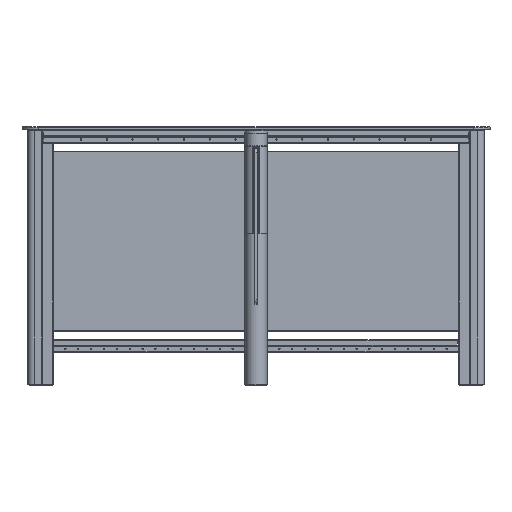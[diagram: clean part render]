
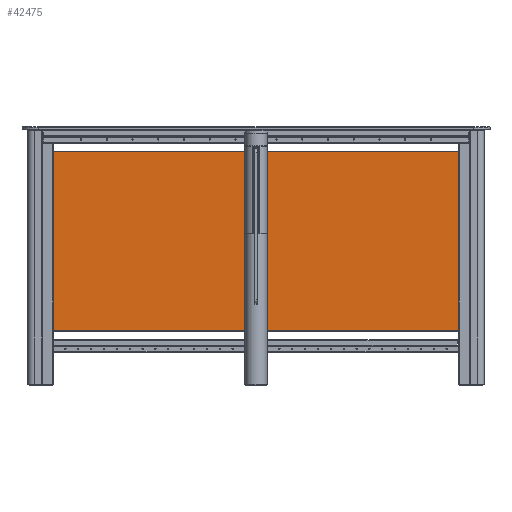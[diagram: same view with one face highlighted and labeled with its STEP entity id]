
A CAD part, left-side view. The second image highlights one B-rep face of the part: STEP entity #42475.
In plain terms, the highlighted planar face has unit normal (-1, 0, 0) as drawn and (0, 0, -1) by its records, which use the part's own axes.
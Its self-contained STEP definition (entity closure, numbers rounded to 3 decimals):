
#6025=LINE('',#73056,#10414);
#6026=LINE('',#73061,#10415);
#6027=LINE('',#73065,#10416);
#6028=LINE('',#73069,#10417);
#10414=VECTOR('',#56935,1000.);
#10415=VECTOR('',#56938,1000.);
#10416=VECTOR('',#56941,1000.);
#10417=VECTOR('',#56944,1000.);
#21252=ORIENTED_EDGE('',*,*,#27601,.T.);
#21253=ORIENTED_EDGE('',*,*,#27602,.T.);
#21254=ORIENTED_EDGE('',*,*,#27603,.T.);
#21255=ORIENTED_EDGE('',*,*,#27604,.T.);
#21256=ORIENTED_EDGE('',*,*,#27605,.T.);
#21257=ORIENTED_EDGE('',*,*,#27606,.T.);
#21258=ORIENTED_EDGE('',*,*,#27607,.T.);
#21259=ORIENTED_EDGE('',*,*,#27608,.T.);
#21260=ORIENTED_EDGE('',*,*,#27609,.T.);
#21261=ORIENTED_EDGE('',*,*,#27610,.T.);
#21262=ORIENTED_EDGE('',*,*,#27611,.T.);
#21263=ORIENTED_EDGE('',*,*,#27612,.T.);
#21264=ORIENTED_EDGE('',*,*,#27613,.T.);
#21265=ORIENTED_EDGE('',*,*,#27614,.T.);
#27601=EDGE_CURVE('',#31579,#31580,#6025,.T.);
#27602=EDGE_CURVE('',#31580,#31581,#32832,.T.);
#27603=EDGE_CURVE('',#31581,#31582,#6026,.T.);
#27604=EDGE_CURVE('',#31582,#31583,#32833,.T.);
#27605=EDGE_CURVE('',#31583,#31584,#6027,.T.);
#27606=EDGE_CURVE('',#31584,#31585,#32834,.T.);
#27607=EDGE_CURVE('',#31585,#31586,#6028,.T.);
#27608=EDGE_CURVE('',#31586,#31579,#32835,.T.);
#27609=EDGE_CURVE('',#31587,#31587,#32836,.F.);
#27610=EDGE_CURVE('',#31588,#31588,#32837,.F.);
#27611=EDGE_CURVE('',#31589,#31589,#32838,.F.);
#27612=EDGE_CURVE('',#31590,#31590,#32839,.F.);
#27613=EDGE_CURVE('',#31591,#31591,#32840,.F.);
#27614=EDGE_CURVE('',#31592,#31592,#32841,.F.);
#31579=VERTEX_POINT('',#73057);
#31580=VERTEX_POINT('',#73058);
#31581=VERTEX_POINT('',#73060);
#31582=VERTEX_POINT('',#73062);
#31583=VERTEX_POINT('',#73064);
#31584=VERTEX_POINT('',#73066);
#31585=VERTEX_POINT('',#73068);
#31586=VERTEX_POINT('',#73070);
#31587=VERTEX_POINT('',#73073);
#31588=VERTEX_POINT('',#73075);
#31589=VERTEX_POINT('',#73077);
#31590=VERTEX_POINT('',#73079);
#31591=VERTEX_POINT('',#73081);
#31592=VERTEX_POINT('',#73083);
#32832=CIRCLE('',#46467,14.);
#32833=CIRCLE('',#46468,14.);
#32834=CIRCLE('',#46469,14.);
#32835=CIRCLE('',#46470,14.);
#32836=CIRCLE('',#46471,7.);
#32837=CIRCLE('',#46472,7.);
#32838=CIRCLE('',#46473,7.);
#32839=CIRCLE('',#46474,7.);
#32840=CIRCLE('',#46475,7.);
#32841=CIRCLE('',#46476,7.);
#35611=EDGE_LOOP('',(#21252,#21253,#21254,#21255,#21256,#21257,#21258,#21259));
#35612=EDGE_LOOP('',(#21260));
#35613=EDGE_LOOP('',(#21261));
#35614=EDGE_LOOP('',(#21262));
#35615=EDGE_LOOP('',(#21263));
#35616=EDGE_LOOP('',(#21264));
#35617=EDGE_LOOP('',(#21265));
#38570=FACE_BOUND('',#35611,.T.);
#38571=FACE_BOUND('',#35612,.T.);
#38572=FACE_BOUND('',#35613,.T.);
#38573=FACE_BOUND('',#35614,.T.);
#38574=FACE_BOUND('',#35615,.T.);
#38575=FACE_BOUND('',#35616,.T.);
#38576=FACE_BOUND('',#35617,.T.);
#40284=PLANE('',#46466);
#42475=ADVANCED_FACE('',(#38570,#38571,#38572,#38573,#38574,#38575,#38576),
#40284,.T.);
#46466=AXIS2_PLACEMENT_3D('',#73055,#56933,#56934);
#46467=AXIS2_PLACEMENT_3D('',#73059,#56936,#56937);
#46468=AXIS2_PLACEMENT_3D('',#73063,#56939,#56940);
#46469=AXIS2_PLACEMENT_3D('',#73067,#56942,#56943);
#46470=AXIS2_PLACEMENT_3D('',#73071,#56945,#56946);
#46471=AXIS2_PLACEMENT_3D('',#73072,#56947,#56948);
#46472=AXIS2_PLACEMENT_3D('',#73074,#56949,#56950);
#46473=AXIS2_PLACEMENT_3D('',#73076,#56951,#56952);
#46474=AXIS2_PLACEMENT_3D('',#73078,#56953,#56954);
#46475=AXIS2_PLACEMENT_3D('',#73080,#56955,#56956);
#46476=AXIS2_PLACEMENT_3D('',#73082,#56957,#56958);
#56933=DIRECTION('',(0.,0.,-1.));
#56934=DIRECTION('',(-1.,0.,0.));
#56935=DIRECTION('',(1.,0.,0.));
#56936=DIRECTION('',(0.,0.,-1.));
#56937=DIRECTION('',(-1.,0.,0.));
#56938=DIRECTION('',(0.,-1.,0.));
#56939=DIRECTION('',(0.,0.,-1.));
#56940=DIRECTION('',(-1.,0.,0.));
#56941=DIRECTION('',(-1.,0.,0.));
#56942=DIRECTION('',(0.,0.,-1.));
#56943=DIRECTION('',(-1.,0.,0.));
#56944=DIRECTION('',(0.,1.,0.));
#56945=DIRECTION('',(0.,0.,-1.));
#56946=DIRECTION('',(-1.,0.,0.));
#56947=DIRECTION('',(0.,0.,-1.));
#56948=DIRECTION('',(-1.,0.,0.));
#56949=DIRECTION('',(0.,0.,-1.));
#56950=DIRECTION('',(-1.,0.,0.));
#56951=DIRECTION('',(0.,0.,-1.));
#56952=DIRECTION('',(-1.,0.,0.));
#56953=DIRECTION('',(0.,0.,-1.));
#56954=DIRECTION('',(-1.,0.,0.));
#56955=DIRECTION('',(0.,0.,-1.));
#56956=DIRECTION('',(-1.,0.,0.));
#56957=DIRECTION('',(0.,0.,-1.));
#56958=DIRECTION('',(-1.,0.,0.));
#73055=CARTESIAN_POINT('',(850.,350.,-4.));
#73056=CARTESIAN_POINT('',(850.,349.,-4.));
#73057=CARTESIAN_POINT('',(-835.,349.,-4.));
#73058=CARTESIAN_POINT('',(835.,349.,-4.));
#73059=CARTESIAN_POINT('',(835.,335.,-4.));
#73060=CARTESIAN_POINT('',(849.,335.,-4.));
#73061=CARTESIAN_POINT('',(849.,350.,-4.));
#73062=CARTESIAN_POINT('',(849.,-335.,-4.));
#73063=CARTESIAN_POINT('',(835.,-335.,-4.));
#73064=CARTESIAN_POINT('',(835.,-349.,-4.));
#73065=CARTESIAN_POINT('',(850.,-349.,-4.));
#73066=CARTESIAN_POINT('',(-835.,-349.,-4.));
#73067=CARTESIAN_POINT('',(-835.,-335.,-4.));
#73068=CARTESIAN_POINT('',(-849.,-335.,-4.));
#73069=CARTESIAN_POINT('',(-849.,350.,-4.));
#73070=CARTESIAN_POINT('',(-849.,335.,-4.));
#73071=CARTESIAN_POINT('',(-835.,335.,-4.));
#73072=CARTESIAN_POINT('',(825.,-250.,-4.));
#73073=CARTESIAN_POINT('',(818.,-250.,-4.));
#73074=CARTESIAN_POINT('',(825.,250.,-4.));
#73075=CARTESIAN_POINT('',(818.,250.,-4.));
#73076=CARTESIAN_POINT('',(-825.,250.,-4.));
#73077=CARTESIAN_POINT('',(-832.,250.,-4.));
#73078=CARTESIAN_POINT('',(-825.,-250.,-4.));
#73079=CARTESIAN_POINT('',(-832.,-250.,-4.));
#73080=CARTESIAN_POINT('',(0.,200.,-4.));
#73081=CARTESIAN_POINT('',(-7.,200.,-4.));
#73082=CARTESIAN_POINT('',(0.,-200.,-4.));
#73083=CARTESIAN_POINT('',(-7.,-200.,-4.));
